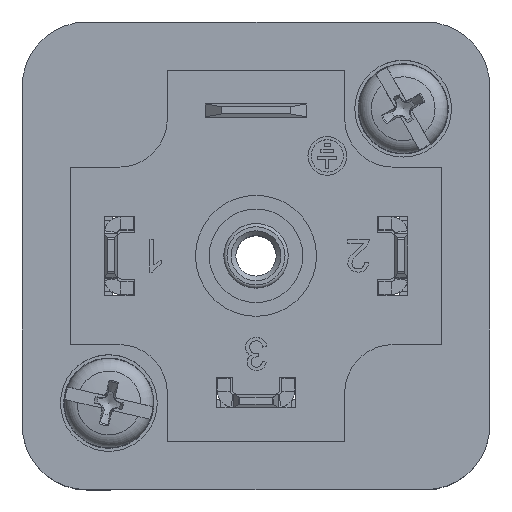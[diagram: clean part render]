
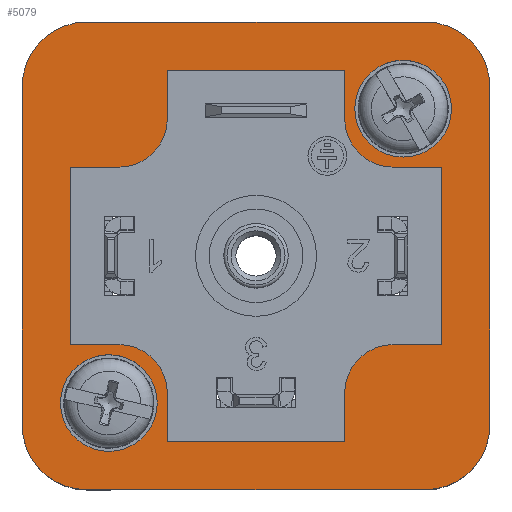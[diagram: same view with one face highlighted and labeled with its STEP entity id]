
A CAD part, top view. The second image highlights one B-rep face of the part: STEP entity #5079.
In plain terms, the highlighted planar face has unit normal (0, 0, 1).
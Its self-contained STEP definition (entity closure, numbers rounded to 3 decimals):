
#1304=CARTESIAN_POINT('',(14.5,10.5,10.5));
#1305=VERTEX_POINT('',#1304);
#1306=CARTESIAN_POINT('',(14.5,-10.5,10.5));
#1307=VERTEX_POINT('',#1306);
#1308=CARTESIAN_POINT('',(14.5,10.5,10.5));
#1309=DIRECTION('',(0.0,-1.0,0.0));
#1310=VECTOR('',#1309,21.);
#1311=LINE('',#1308,#1310);
#1312=EDGE_CURVE('',#1305,#1307,#1311,.T.);
#4857=CARTESIAN_POINT('',(0.,0.,10.5));
#4858=DIRECTION('',(0.0,0.0,1.0));
#4859=DIRECTION('',(0.0,1.0,0.0));
#4860=AXIS2_PLACEMENT_3D('',#4857,#4858,#4859);
#4861=PLANE('',#4860);
#4862=CARTESIAN_POINT('',(10.5,14.5,10.5));
#4863=VERTEX_POINT('',#4862);
#4864=CARTESIAN_POINT('',(10.5,10.5,10.5));
#4865=DIRECTION('',(0.0,0.0,-1.0));
#4866=DIRECTION('',(1.0,0.0,0.0));
#4867=AXIS2_PLACEMENT_3D('',#4864,#4865,#4866);
#4868=CIRCLE('',#4867,4.);
#4869=EDGE_CURVE('',#4863,#1305,#4868,.T.);
#4870=ORIENTED_EDGE('',*,*,#4869,.F.);
#4871=CARTESIAN_POINT('',(-10.5,14.5,10.5));
#4872=VERTEX_POINT('',#4871);
#4873=CARTESIAN_POINT('',(-10.5,14.5,10.5));
#4874=DIRECTION('',(1.0,0.0,0.0));
#4875=VECTOR('',#4874,21.0);
#4876=LINE('',#4873,#4875);
#4877=EDGE_CURVE('',#4872,#4863,#4876,.T.);
#4878=ORIENTED_EDGE('',*,*,#4877,.F.);
#4879=CARTESIAN_POINT('',(-14.5,10.5,10.5));
#4880=VERTEX_POINT('',#4879);
#4881=CARTESIAN_POINT('',(-10.5,10.5,10.5));
#4882=DIRECTION('',(0.0,0.0,-1.0));
#4883=DIRECTION('',(0.0,1.0,0.0));
#4884=AXIS2_PLACEMENT_3D('',#4881,#4882,#4883);
#4885=CIRCLE('',#4884,4.);
#4886=EDGE_CURVE('',#4880,#4872,#4885,.T.);
#4887=ORIENTED_EDGE('',*,*,#4886,.F.);
#4888=CARTESIAN_POINT('',(-14.5,-10.5,10.5));
#4889=VERTEX_POINT('',#4888);
#4890=CARTESIAN_POINT('',(-14.5,-10.5,10.5));
#4891=DIRECTION('',(0.0,1.0,0.0));
#4892=VECTOR('',#4891,21.);
#4893=LINE('',#4890,#4892);
#4894=EDGE_CURVE('',#4889,#4880,#4893,.T.);
#4895=ORIENTED_EDGE('',*,*,#4894,.F.);
#4896=CARTESIAN_POINT('',(-10.5,-14.5,10.5));
#4897=VERTEX_POINT('',#4896);
#4898=CARTESIAN_POINT('',(-10.5,-10.5,10.5));
#4899=DIRECTION('',(0.0,0.0,-1.0));
#4900=DIRECTION('',(-1.0,0.0,0.0));
#4901=AXIS2_PLACEMENT_3D('',#4898,#4899,#4900);
#4902=CIRCLE('',#4901,4.0);
#4903=EDGE_CURVE('',#4897,#4889,#4902,.T.);
#4904=ORIENTED_EDGE('',*,*,#4903,.F.);
#4905=CARTESIAN_POINT('',(10.5,-14.5,10.5));
#4906=VERTEX_POINT('',#4905);
#4907=CARTESIAN_POINT('',(10.5,-14.5,10.5));
#4908=DIRECTION('',(-1.0,0.0,0.0));
#4909=VECTOR('',#4908,21.0);
#4910=LINE('',#4907,#4909);
#4911=EDGE_CURVE('',#4906,#4897,#4910,.T.);
#4912=ORIENTED_EDGE('',*,*,#4911,.F.);
#4913=CARTESIAN_POINT('',(10.5,-10.5,10.5));
#4914=DIRECTION('',(0.0,0.0,-1.0));
#4915=DIRECTION('',(0.0,-1.0,0.0));
#4916=AXIS2_PLACEMENT_3D('',#4913,#4914,#4915);
#4917=CIRCLE('',#4916,4.);
#4918=EDGE_CURVE('',#1307,#4906,#4917,.T.);
#4919=ORIENTED_EDGE('',*,*,#4918,.F.);
#4920=ORIENTED_EDGE('',*,*,#1312,.F.);
#4921=EDGE_LOOP('',(#4870,#4878,#4887,#4895,#4904,#4912,#4919,#4920));
#4922=FACE_OUTER_BOUND('',#4921,.T.);
#4923=CARTESIAN_POINT('',(-12.125,-9.125,10.5));
#4924=VERTEX_POINT('',#4923);
#4925=CARTESIAN_POINT('',(-9.125,-9.125,10.5));
#4926=DIRECTION('',(0.0,0.0,-1.0));
#4927=DIRECTION('',(1.0,0.0,0.0));
#4928=AXIS2_PLACEMENT_3D('',#4925,#4926,#4927);
#4929=CIRCLE('',#4928,3.);
#4930=EDGE_CURVE('',#4924,#4924,#4929,.T.);
#4931=ORIENTED_EDGE('',*,*,#4930,.T.);
#4932=EDGE_LOOP('',(#4931));
#4933=FACE_BOUND('',#4932,.T.);
#4934=CARTESIAN_POINT('',(6.125,9.125,10.5));
#4935=VERTEX_POINT('',#4934);
#4936=CARTESIAN_POINT('',(9.125,9.125,10.5));
#4937=DIRECTION('',(0.0,0.0,-1.0));
#4938=DIRECTION('',(1.0,0.0,0.0));
#4939=AXIS2_PLACEMENT_3D('',#4936,#4937,#4938);
#4940=CIRCLE('',#4939,3.);
#4941=EDGE_CURVE('',#4935,#4935,#4940,.T.);
#4942=ORIENTED_EDGE('',*,*,#4941,.T.);
#4943=EDGE_LOOP('',(#4942));
#4944=FACE_BOUND('',#4943,.T.);
#4945=CARTESIAN_POINT('',(8.5,5.5,10.5));
#4946=VERTEX_POINT('',#4945);
#4947=CARTESIAN_POINT('',(11.5,5.5,10.5));
#4948=VERTEX_POINT('',#4947);
#4949=CARTESIAN_POINT('',(8.5,5.5,10.5));
#4950=DIRECTION('',(1.0,0.0,0.0));
#4951=VECTOR('',#4950,3.);
#4952=LINE('',#4949,#4951);
#4953=EDGE_CURVE('',#4946,#4948,#4952,.T.);
#4954=ORIENTED_EDGE('',*,*,#4953,.T.);
#4955=CARTESIAN_POINT('',(11.5,-5.5,10.5));
#4956=VERTEX_POINT('',#4955);
#4957=CARTESIAN_POINT('',(11.5,5.5,10.5));
#4958=DIRECTION('',(0.0,-1.0,0.0));
#4959=VECTOR('',#4958,11.);
#4960=LINE('',#4957,#4959);
#4961=EDGE_CURVE('',#4948,#4956,#4960,.T.);
#4962=ORIENTED_EDGE('',*,*,#4961,.T.);
#4963=CARTESIAN_POINT('',(8.5,-5.5,10.5));
#4964=VERTEX_POINT('',#4963);
#4965=CARTESIAN_POINT('',(11.5,-5.5,10.5));
#4966=DIRECTION('',(-1.0,0.0,0.0));
#4967=VECTOR('',#4966,3.);
#4968=LINE('',#4965,#4967);
#4969=EDGE_CURVE('',#4956,#4964,#4968,.T.);
#4970=ORIENTED_EDGE('',*,*,#4969,.T.);
#4971=CARTESIAN_POINT('',(5.5,-8.5,10.5));
#4972=VERTEX_POINT('',#4971);
#4973=CARTESIAN_POINT('',(8.5,-8.5,10.5));
#4974=DIRECTION('',(0.0,0.0,1.0));
#4975=DIRECTION('',(0.0,1.0,0.0));
#4976=AXIS2_PLACEMENT_3D('',#4973,#4974,#4975);
#4977=CIRCLE('',#4976,3.);
#4978=EDGE_CURVE('',#4964,#4972,#4977,.T.);
#4979=ORIENTED_EDGE('',*,*,#4978,.T.);
#4980=CARTESIAN_POINT('',(5.5,-11.5,10.5));
#4981=VERTEX_POINT('',#4980);
#4982=CARTESIAN_POINT('',(5.5,-8.5,10.5));
#4983=DIRECTION('',(0.0,-1.0,0.0));
#4984=VECTOR('',#4983,3.0);
#4985=LINE('',#4982,#4984);
#4986=EDGE_CURVE('',#4972,#4981,#4985,.T.);
#4987=ORIENTED_EDGE('',*,*,#4986,.T.);
#4988=CARTESIAN_POINT('',(-5.5,-11.5,10.5));
#4989=VERTEX_POINT('',#4988);
#4990=CARTESIAN_POINT('',(5.5,-11.5,10.5));
#4991=DIRECTION('',(-1.0,0.0,0.0));
#4992=VECTOR('',#4991,11.0);
#4993=LINE('',#4990,#4992);
#4994=EDGE_CURVE('',#4981,#4989,#4993,.T.);
#4995=ORIENTED_EDGE('',*,*,#4994,.T.);
#4996=CARTESIAN_POINT('',(-5.5,-8.5,10.5));
#4997=VERTEX_POINT('',#4996);
#4998=CARTESIAN_POINT('',(-5.5,-11.5,10.5));
#4999=DIRECTION('',(0.0,1.0,0.0));
#5000=VECTOR('',#4999,3.0);
#5001=LINE('',#4998,#5000);
#5002=EDGE_CURVE('',#4989,#4997,#5001,.T.);
#5003=ORIENTED_EDGE('',*,*,#5002,.T.);
#5004=CARTESIAN_POINT('',(-8.5,-5.5,10.5));
#5005=VERTEX_POINT('',#5004);
#5006=CARTESIAN_POINT('',(-8.5,-8.5,10.5));
#5007=DIRECTION('',(0.0,0.0,1.0));
#5008=DIRECTION('',(1.0,0.0,0.0));
#5009=AXIS2_PLACEMENT_3D('',#5006,#5007,#5008);
#5010=CIRCLE('',#5009,3.);
#5011=EDGE_CURVE('',#4997,#5005,#5010,.T.);
#5012=ORIENTED_EDGE('',*,*,#5011,.T.);
#5013=CARTESIAN_POINT('',(-11.5,-5.5,10.5));
#5014=VERTEX_POINT('',#5013);
#5015=CARTESIAN_POINT('',(-8.5,-5.5,10.5));
#5016=DIRECTION('',(-1.0,0.0,0.0));
#5017=VECTOR('',#5016,3.);
#5018=LINE('',#5015,#5017);
#5019=EDGE_CURVE('',#5005,#5014,#5018,.T.);
#5020=ORIENTED_EDGE('',*,*,#5019,.T.);
#5021=CARTESIAN_POINT('',(-11.5,5.5,10.5));
#5022=VERTEX_POINT('',#5021);
#5023=CARTESIAN_POINT('',(-11.5,-5.5,10.5));
#5024=DIRECTION('',(0.0,1.0,0.0));
#5025=VECTOR('',#5024,11.0);
#5026=LINE('',#5023,#5025);
#5027=EDGE_CURVE('',#5014,#5022,#5026,.T.);
#5028=ORIENTED_EDGE('',*,*,#5027,.T.);
#5029=CARTESIAN_POINT('',(-8.5,5.5,10.5));
#5030=VERTEX_POINT('',#5029);
#5031=CARTESIAN_POINT('',(-11.5,5.5,10.5));
#5032=DIRECTION('',(1.0,0.0,0.0));
#5033=VECTOR('',#5032,3.);
#5034=LINE('',#5031,#5033);
#5035=EDGE_CURVE('',#5022,#5030,#5034,.T.);
#5036=ORIENTED_EDGE('',*,*,#5035,.T.);
#5037=CARTESIAN_POINT('',(-5.5,8.5,10.5));
#5038=VERTEX_POINT('',#5037);
#5039=CARTESIAN_POINT('',(-8.5,8.5,10.5));
#5040=DIRECTION('',(0.0,0.0,1.0));
#5041=DIRECTION('',(0.0,-1.0,0.0));
#5042=AXIS2_PLACEMENT_3D('',#5039,#5040,#5041);
#5043=CIRCLE('',#5042,3.);
#5044=EDGE_CURVE('',#5030,#5038,#5043,.T.);
#5045=ORIENTED_EDGE('',*,*,#5044,.T.);
#5046=CARTESIAN_POINT('',(-5.5,11.5,10.5));
#5047=VERTEX_POINT('',#5046);
#5048=CARTESIAN_POINT('',(-5.5,8.5,10.5));
#5049=DIRECTION('',(0.0,1.0,0.0));
#5050=VECTOR('',#5049,3.);
#5051=LINE('',#5048,#5050);
#5052=EDGE_CURVE('',#5038,#5047,#5051,.T.);
#5053=ORIENTED_EDGE('',*,*,#5052,.T.);
#5054=CARTESIAN_POINT('',(5.5,11.5,10.5));
#5055=VERTEX_POINT('',#5054);
#5056=CARTESIAN_POINT('',(-5.5,11.5,10.5));
#5057=DIRECTION('',(1.0,0.0,0.0));
#5058=VECTOR('',#5057,11.0);
#5059=LINE('',#5056,#5058);
#5060=EDGE_CURVE('',#5047,#5055,#5059,.T.);
#5061=ORIENTED_EDGE('',*,*,#5060,.T.);
#5062=CARTESIAN_POINT('',(5.5,8.5,10.5));
#5063=VERTEX_POINT('',#5062);
#5064=CARTESIAN_POINT('',(5.5,11.5,10.5));
#5065=DIRECTION('',(0.0,-1.0,0.0));
#5066=VECTOR('',#5065,3.);
#5067=LINE('',#5064,#5066);
#5068=EDGE_CURVE('',#5055,#5063,#5067,.T.);
#5069=ORIENTED_EDGE('',*,*,#5068,.T.);
#5070=CARTESIAN_POINT('',(8.5,8.5,10.5));
#5071=DIRECTION('',(0.0,0.0,1.0));
#5072=DIRECTION('',(-1.0,0.0,0.0));
#5073=AXIS2_PLACEMENT_3D('',#5070,#5071,#5072);
#5074=CIRCLE('',#5073,3.);
#5075=EDGE_CURVE('',#5063,#4946,#5074,.T.);
#5076=ORIENTED_EDGE('',*,*,#5075,.T.);
#5077=EDGE_LOOP('',(#4954,#4962,#4970,#4979,#4987,#4995,#5003,#5012,#5020,#5028,#5036,#5045,#5053,#5061,#5069,#5076));
#5078=FACE_BOUND('',#5077,.T.);
#5079=ADVANCED_FACE('',(#4922,#4933,#4944,#5078),#4861,.T.);
